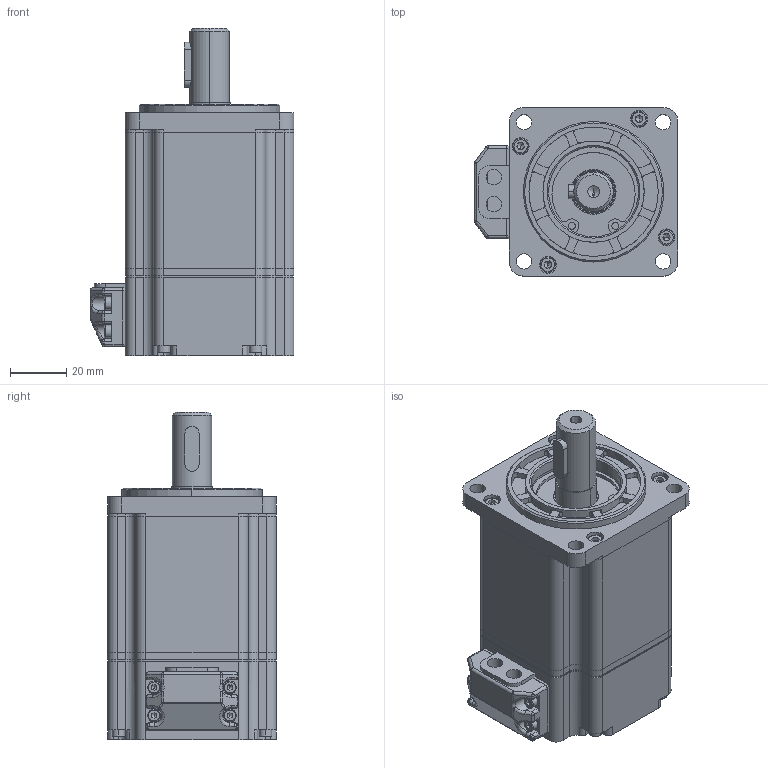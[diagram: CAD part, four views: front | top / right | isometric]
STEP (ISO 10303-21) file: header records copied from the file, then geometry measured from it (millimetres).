
FILE_DESCRIPTION (( 'STEP AP203' ), '1' );
FILE_NAME ('淕儂蚾饜.STEP', '2021-03-12T01:16:07', ( 'admin' ), ( '' ), 'SwSTEP 2.0', 'SolidWorks 2016', '' );
FILE_SCHEMA (( 'CONFIG_CONTROL_DESIGN' ));
Length unit declared in the file: millimetre
Products named in the file (1): 淕儂蚾饜
Bounding box: 72.5 x 60 x 116.5 mm (x, y, z)
Volume: 123049.3 mm3; surface area: 87432.3 mm2
Topology: 25 solids, 25 shells, 1343 faces, 3647 edges, 2290 vertices
Faces by surface type: cylinder 579, plane 473, cone 123, torus 98, sphere 58, bspline 12
Entity records: 44043 total; most frequent: CARTESIAN_POINT 10097, DIRECTION 7458, ORIENTED_EDGE 6946, EDGE_CURVE 3473, AXIS2_PLACEMENT_3D 2943, VERTEX_POINT 2226, CIRCLE 1611, LINE 1572
